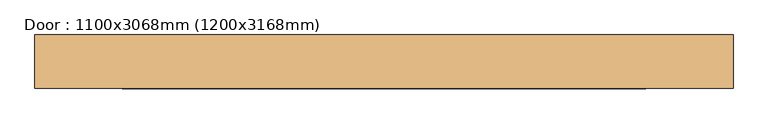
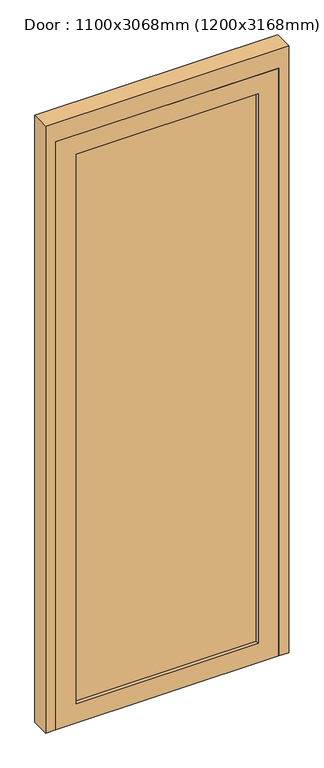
"""IFC4 building model written with IfcOpenShell, lengths in millimetres: door geometry, Door : 1100x3068mm (1200x3168mm)."""

from ifc_helpers import new_model, si_unit, frame, origin, place, context, project, spatial, polyline, outline, extrude, source, transform, mapped, element, save


def door_1100x3068mm_1200x3168mm_a6e2f689(model_context):
    return source(origin(), model_context, "Body", "SweptSolid", [
        extrude(outline(polyline([(450.0, -205.0), (-450.0, -205.0), (-450.0, -153.0), (450.0, -153.0), (450.0, -205.0)])), frame((0.0, 0.0, 100.0), z_axis=(0.0, 0.0, 1.0), x_axis=(1.0, 0.0, 0.0)), (0.0, 0.0, 1.0), 2868.0),
        extrude(outline(polyline([(3068.0, 550.0), (3068.0, -550.0), (0.0, -550.0), (0.0, 550.0), (3068.0, 550.0)]), holes=[polyline([(2968.0, 450.0), (100.0, 450.0), (100.0, -450.0), (2968.0, -450.0), (2968.0, 450.0)])]), frame((0.0, -225.0, 0.0), z_axis=(0.0, 1.0, 0.0), x_axis=(0.0, 0.0, 1.0)), (0.0, 0.0, 1.0), 92.0),
        extrude(outline(polyline([(3168.0, -600.0), (0.0, -600.0), (0.0, -550.0), (3068.0, -550.0), (3068.0, 550.0), (0.0, 550.0), (0.0, 600.0), (3168.0, 600.0), (3168.0, -600.0)])), frame((0.0, -225.0, 0.0), z_axis=(0.0, 1.0, 0.0), x_axis=(0.0, 0.0, 1.0)), (0.0, 0.0, 1.0), 92.0),
    ])


if __name__ == "__main__":
    model = new_model("IFC4")
    model_context = context("Model", 3, world=origin())
    ifc_project = project(units=[si_unit("LENGTHUNIT", "METRE", prefix="MILLI")], contexts=[model_context])
    site = spatial("IfcSite", under=ifc_project)
    building = spatial("IfcBuilding", under=site)
    placement = place(None, origin())
    door_1100x3068mm_1200x3168mm_shape = door_1100x3068mm_1200x3168mm_a6e2f689(model_context)
    element("IfcDoor", 1, ObjectType="Door : 1100x3068mm (1200x3168mm)", at=placement, inside=building, context=model_context, shape_type="MappedRepresentation", body=[
        mapped(door_1100x3068mm_1200x3168mm_shape, transform((0.0, 0.0, 0.0), x_axis=(1.0, 0.0, 0.0), y_axis=(0.0, 1.0, 0.0), z_axis=(0.0, 0.0, 1.0))),
    ])
    save(model, "model.ifc")
